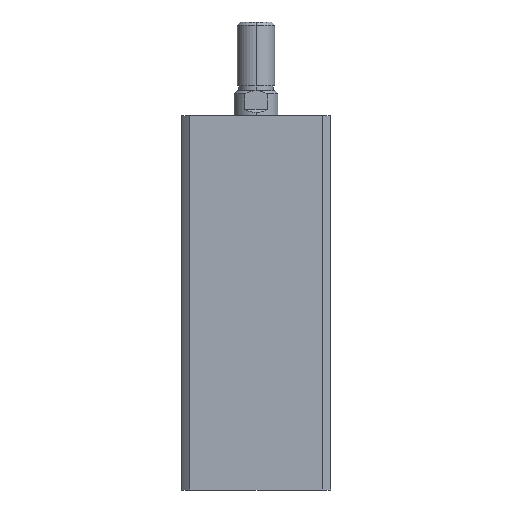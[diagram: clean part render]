
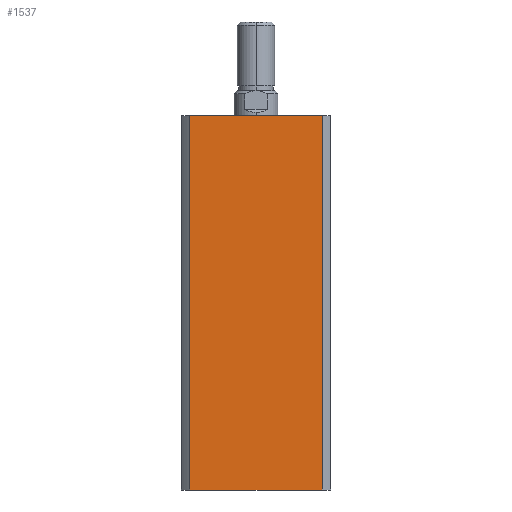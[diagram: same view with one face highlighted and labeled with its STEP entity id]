
A CAD part, left-side view. The second image highlights one B-rep face of the part: STEP entity #1537.
In plain terms, the highlighted planar face has unit normal (-1, 0, 0).
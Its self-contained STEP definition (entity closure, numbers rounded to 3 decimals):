
#571 = CARTESIAN_POINT ( 'NONE',  ( -24., 0., 120. ) ) ;
#572 = DIRECTION ( 'NONE',  ( 0., -1., 0. ) ) ;
#604 = DIRECTION ( 'NONE',  ( 0., 0., -1. ) ) ;
#606 = DIRECTION ( 'NONE',  ( 1., 0., 0. ) ) ;
#609 = CARTESIAN_POINT ( 'NONE',  ( -24., 0., 120. ) ) ;
#611 = PLANE ( 'NONE',  #4858 ) ;
#615 = CARTESIAN_POINT ( 'NONE',  ( -24., -21.166, 0. ) ) ;
#732 = EDGE_CURVE ( 'NONE', #3730, #1511, #959, .T. ) ;
#733 = EDGE_CURVE ( 'NONE', #3709, #1490, #965, .T. ) ;
#739 = EDGE_CURVE ( 'NONE', #1490, #1511, #970, .T. ) ;
#809 = ORIENTED_EDGE ( 'NONE', *, *, #733, .T. ) ;
#810 = ORIENTED_EDGE ( 'NONE', *, *, #4722, .F. ) ;
#811 = ORIENTED_EDGE ( 'NONE', *, *, #732, .F. ) ;
#812 = ORIENTED_EDGE ( 'NONE', *, *, #739, .T. ) ;
#959 = LINE ( 'NONE', #4029, #964 ) ;
#964 = VECTOR ( 'NONE', #3893, 1000. ) ;
#965 = LINE ( 'NONE', #4030, #969 ) ;
#969 = VECTOR ( 'NONE', #4023, 1000. ) ;
#970 = LINE ( 'NONE', #4021, #972 ) ;
#972 = VECTOR ( 'NONE', #4020, 1000. ) ;
#1023 = FACE_OUTER_BOUND ( 'NONE', #1418, .T. ) ;
#1418 = EDGE_LOOP ( 'NONE', ( #812, #811, #810, #809 ) ) ;
#1490 = VERTEX_POINT ( 'NONE', #3895 ) ;
#1511 = VERTEX_POINT ( 'NONE', #615 ) ;
#1537 = ADVANCED_FACE ( 'NONE', ( #1023 ), #611, .F. ) ;
#2345 = CARTESIAN_POINT ( 'NONE',  ( -24., 21.166, 120. ) ) ;
#2366 = CARTESIAN_POINT ( 'NONE',  ( -24., -21.166, 120. ) ) ;
#3709 = VERTEX_POINT ( 'NONE', #2345 ) ;
#3730 = VERTEX_POINT ( 'NONE', #2366 ) ;
#3893 = DIRECTION ( 'NONE',  ( 0., 0., -1. ) ) ;
#3895 = CARTESIAN_POINT ( 'NONE',  ( -24., 21.166, 0. ) ) ;
#4020 = DIRECTION ( 'NONE',  ( 0., -1., 0. ) ) ;
#4021 = CARTESIAN_POINT ( 'NONE',  ( -24., 0., 0. ) ) ;
#4023 = DIRECTION ( 'NONE',  ( 0., 0., -1. ) ) ;
#4029 = CARTESIAN_POINT ( 'NONE',  ( -24., -21.166, 120. ) ) ;
#4030 = CARTESIAN_POINT ( 'NONE',  ( -24., 21.166, 120. ) ) ;
#4323 = LINE ( 'NONE', #571, #4325 ) ;
#4325 = VECTOR ( 'NONE', #572, 1000. ) ;
#4722 = EDGE_CURVE ( 'NONE', #3709, #3730, #4323, .T. ) ;
#4858 = AXIS2_PLACEMENT_3D ( 'NONE', #609, #606, #604 ) ;
